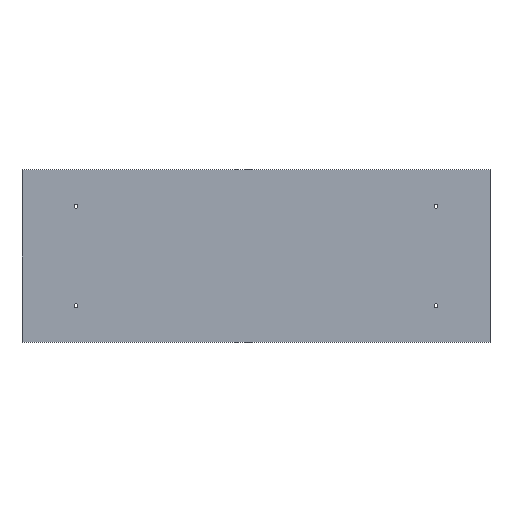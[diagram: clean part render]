
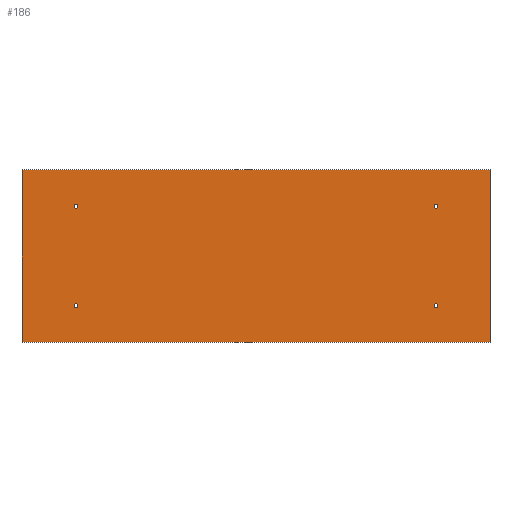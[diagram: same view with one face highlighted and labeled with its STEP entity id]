
A CAD part, top view. The second image highlights one B-rep face of the part: STEP entity #186.
In plain terms, the highlighted planar face has unit normal (0, 0, 1).
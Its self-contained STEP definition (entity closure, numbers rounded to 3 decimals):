
#55=AXIS2_PLACEMENT_3D('Circle Axis2P3D',#53,#54,$) ;
#79=AXIS2_PLACEMENT_3D('Circle Axis2P3D',#77,#78,$) ;
#92=AXIS2_PLACEMENT_3D('Plane Axis2P3D',#89,#90,#91) ;
#134=AXIS2_PLACEMENT_3D('Circle Axis2P3D',#132,#133,$) ;
#143=AXIS2_PLACEMENT_3D('Circle Axis2P3D',#141,#142,$) ;
#152=AXIS2_PLACEMENT_3D('Circle Axis2P3D',#150,#151,$) ;
#161=AXIS2_PLACEMENT_3D('Circle Axis2P3D',#159,#160,$) ;
#170=AXIS2_PLACEMENT_3D('Circle Axis2P3D',#168,#169,$) ;
#179=AXIS2_PLACEMENT_3D('Circle Axis2P3D',#177,#178,$) ;
#50=CARTESIAN_POINT('Vertex',(72.25,-51.,2.)) ;
#53=CARTESIAN_POINT('Axis2P3D Location',(75.,-51.,2.)) ;
#57=CARTESIAN_POINT('Vertex',(77.75,-51.,2.)) ;
#77=CARTESIAN_POINT('Axis2P3D Location',(75.,-51.,2.)) ;
#89=CARTESIAN_POINT('Axis2P3D Location',(0.,0.,2.)) ;
#94=CARTESIAN_POINT('Line Origine',(0.,-120.,2.)) ;
#98=CARTESIAN_POINT('Vertex',(0.,0.,2.)) ;
#100=CARTESIAN_POINT('Vertex',(0.,-240.,2.)) ;
#103=CARTESIAN_POINT('Line Origine',(325.,-240.,2.)) ;
#107=CARTESIAN_POINT('Vertex',(650.,-240.,2.)) ;
#110=CARTESIAN_POINT('Line Origine',(650.,-120.,2.)) ;
#114=CARTESIAN_POINT('Vertex',(650.,0.,2.)) ;
#117=CARTESIAN_POINT('Line Origine',(325.,0.,2.)) ;
#132=CARTESIAN_POINT('Axis2P3D Location',(75.,-189.,2.)) ;
#136=CARTESIAN_POINT('Vertex',(77.75,-189.,2.)) ;
#138=CARTESIAN_POINT('Vertex',(72.25,-189.,2.)) ;
#141=CARTESIAN_POINT('Axis2P3D Location',(75.,-189.,2.)) ;
#150=CARTESIAN_POINT('Axis2P3D Location',(575.,-51.,2.)) ;
#154=CARTESIAN_POINT('Vertex',(577.75,-51.,2.)) ;
#156=CARTESIAN_POINT('Vertex',(572.25,-51.,2.)) ;
#159=CARTESIAN_POINT('Axis2P3D Location',(575.,-51.,2.)) ;
#168=CARTESIAN_POINT('Axis2P3D Location',(575.,-189.,2.)) ;
#172=CARTESIAN_POINT('Vertex',(577.75,-189.,2.)) ;
#174=CARTESIAN_POINT('Vertex',(572.25,-189.,2.)) ;
#177=CARTESIAN_POINT('Axis2P3D Location',(575.,-189.,2.)) ;
#54=DIRECTION('Axis2P3D Direction',(0.,0.,1.)) ;
#78=DIRECTION('Axis2P3D Direction',(0.,0.,1.)) ;
#90=DIRECTION('Axis2P3D Direction',(0.,0.,1.)) ;
#91=DIRECTION('Axis2P3D XDirection',(1.,0.,0.)) ;
#95=DIRECTION('Vector Direction',(0.,-1.,0.)) ;
#104=DIRECTION('Vector Direction',(-1.,0.,0.)) ;
#111=DIRECTION('Vector Direction',(0.,1.,0.)) ;
#118=DIRECTION('Vector Direction',(1.,0.,0.)) ;
#133=DIRECTION('Axis2P3D Direction',(0.,0.,1.)) ;
#142=DIRECTION('Axis2P3D Direction',(0.,0.,1.)) ;
#151=DIRECTION('Axis2P3D Direction',(0.,0.,1.)) ;
#160=DIRECTION('Axis2P3D Direction',(0.,0.,1.)) ;
#169=DIRECTION('Axis2P3D Direction',(0.,0.,1.)) ;
#178=DIRECTION('Axis2P3D Direction',(0.,0.,1.)) ;
#96=VECTOR('Line Direction',#95,1.) ;
#105=VECTOR('Line Direction',#104,1.) ;
#112=VECTOR('Line Direction',#111,1.) ;
#119=VECTOR('Line Direction',#118,1.) ;
#123=ORIENTED_EDGE('',*,*,#102,.T.) ;
#124=ORIENTED_EDGE('',*,*,#109,.T.) ;
#125=ORIENTED_EDGE('',*,*,#116,.T.) ;
#126=ORIENTED_EDGE('',*,*,#121,.T.) ;
#129=ORIENTED_EDGE('',*,*,#81,.F.) ;
#130=ORIENTED_EDGE('',*,*,#59,.F.) ;
#147=ORIENTED_EDGE('',*,*,#140,.F.) ;
#148=ORIENTED_EDGE('',*,*,#145,.F.) ;
#165=ORIENTED_EDGE('',*,*,#158,.F.) ;
#166=ORIENTED_EDGE('',*,*,#163,.F.) ;
#183=ORIENTED_EDGE('',*,*,#176,.F.) ;
#184=ORIENTED_EDGE('',*,*,#181,.F.) ;
#131=FACE_BOUND('',#128,.T.) ;
#149=FACE_BOUND('',#146,.T.) ;
#167=FACE_BOUND('',#164,.T.) ;
#185=FACE_BOUND('',#182,.T.) ;
#186=ADVANCED_FACE('\X2\96F64EF651E04F554F53\X0\',(#127,#131,#149,#167,#185),#93,.T.) ;
#56=CIRCLE('generated circle',#55,2.75) ;
#80=CIRCLE('generated circle',#79,2.75) ;
#135=CIRCLE('generated circle',#134,2.75) ;
#144=CIRCLE('generated circle',#143,2.75) ;
#153=CIRCLE('generated circle',#152,2.75) ;
#162=CIRCLE('generated circle',#161,2.75) ;
#171=CIRCLE('generated circle',#170,2.75) ;
#180=CIRCLE('generated circle',#179,2.75) ;
#59=EDGE_CURVE('',#51,#58,#56,.T.) ;
#81=EDGE_CURVE('',#58,#51,#80,.T.) ;
#102=EDGE_CURVE('',#99,#101,#97,.T.) ;
#109=EDGE_CURVE('',#101,#108,#106,.F.) ;
#116=EDGE_CURVE('',#108,#115,#113,.T.) ;
#121=EDGE_CURVE('',#115,#99,#120,.F.) ;
#140=EDGE_CURVE('',#137,#139,#135,.T.) ;
#145=EDGE_CURVE('',#139,#137,#144,.T.) ;
#158=EDGE_CURVE('',#155,#157,#153,.T.) ;
#163=EDGE_CURVE('',#157,#155,#162,.T.) ;
#176=EDGE_CURVE('',#173,#175,#171,.T.) ;
#181=EDGE_CURVE('',#175,#173,#180,.T.) ;
#122=EDGE_LOOP('',(#123,#124,#125,#126)) ;
#128=EDGE_LOOP('',(#129,#130)) ;
#146=EDGE_LOOP('',(#147,#148)) ;
#164=EDGE_LOOP('',(#165,#166)) ;
#182=EDGE_LOOP('',(#183,#184)) ;
#127=FACE_OUTER_BOUND('',#122,.T.) ;
#97=LINE('Line',#94,#96) ;
#106=LINE('Line',#103,#105) ;
#113=LINE('Line',#110,#112) ;
#120=LINE('Line',#117,#119) ;
#93=PLANE('',#92) ;
#51=VERTEX_POINT('',#50) ;
#58=VERTEX_POINT('',#57) ;
#99=VERTEX_POINT('',#98) ;
#101=VERTEX_POINT('',#100) ;
#108=VERTEX_POINT('',#107) ;
#115=VERTEX_POINT('',#114) ;
#137=VERTEX_POINT('',#136) ;
#139=VERTEX_POINT('',#138) ;
#155=VERTEX_POINT('',#154) ;
#157=VERTEX_POINT('',#156) ;
#173=VERTEX_POINT('',#172) ;
#175=VERTEX_POINT('',#174) ;
